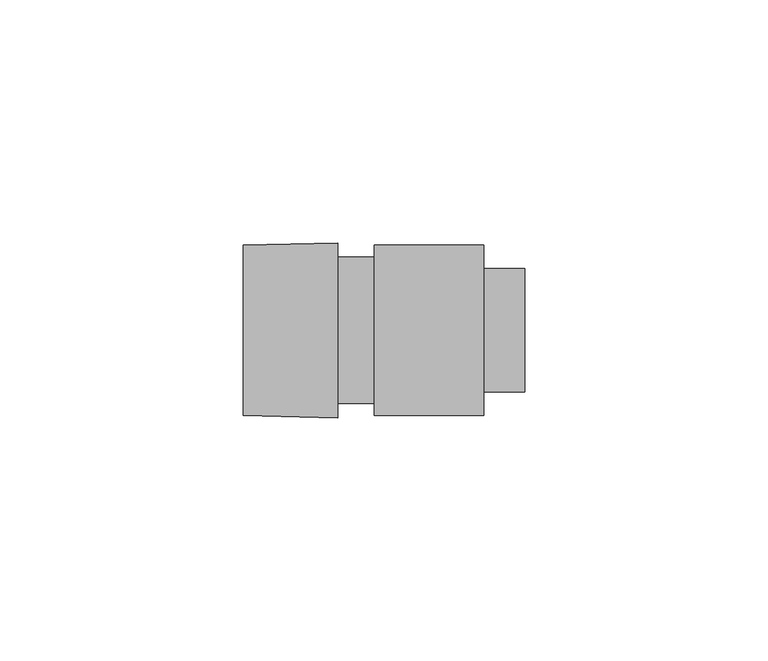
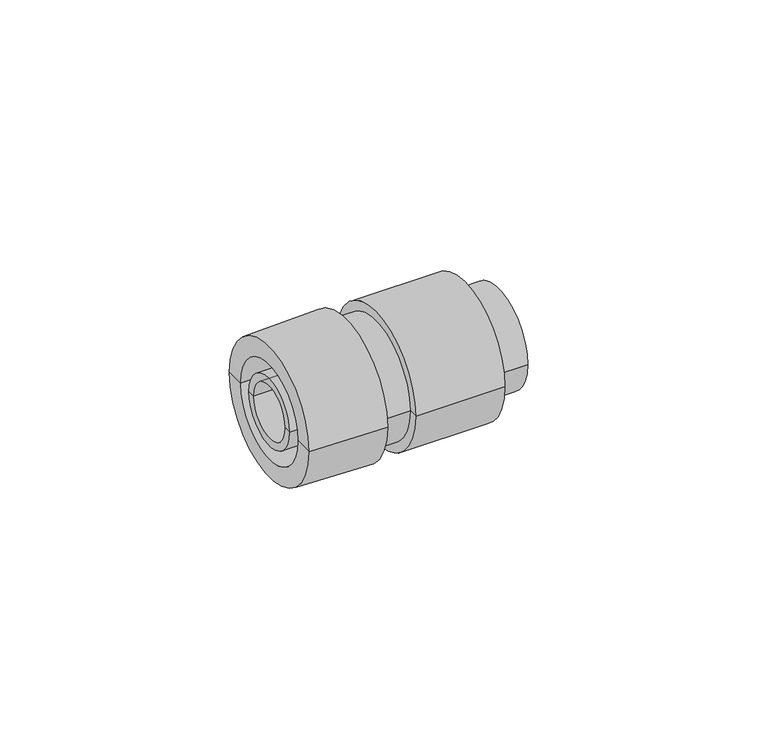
"""IFC4 building model written with IfcOpenShell, lengths in millimetres: cable carrier fitting geometry, КНС_ПереходникАрмированнаяТрубаКоробка_IP65_DKC : Коробка."""

import ifcopenshell
import ifcopenshell.guid

model = None  # the IFC model being written
_history = None  # IfcOwnerHistory: only IFC2X3 demands one
_inside = {}  # id of a spatial element -> (the spatial element, [elements in it])
_under = {}  # id of a project, library or spatial element -> (it, [spatial elements below it])
_declared = {}  # id of a project -> (the project, [libraries it declares])
_typed = {}  # id of a type object -> (the type object, [elements of that type])
_made_of = {}  # id of a material, layer set ... -> (it, [elements and type objects made of it])


def new_model(schema):
    """Start an empty IFC model of exactly this schema.

    Asked for "IFC4X3", IfcOpenShell would pick the latest addendum, in which some entities
    have other attributes; the version numbers below select the first issue.
    IFC2X3 requires an IfcOwnerHistory on every rooted entity: one is made here for all.
    """
    global model, _history
    if schema == "IFC4X3":
        model = ifcopenshell.file(schema_version=(4, 3, 0, 0))
    else:
        model = ifcopenshell.file(schema=schema)
    _inside.clear()
    _under.clear()
    _declared.clear()
    _typed.clear()
    _made_of.clear()
    _history = None
    if model.schema == "IFC2X3":
        org = make("IfcOrganization", Name="unknown")
        user = make(
            "IfcPersonAndOrganization",
            ThePerson=make("IfcPerson", FamilyName="unknown"),
            TheOrganization=org,
        )
        app = make(
            "IfcApplication",
            ApplicationDeveloper=org,
            Version="unknown",
            ApplicationFullName="unknown",
            ApplicationIdentifier="unknown",
        )
        _history = make(
            "IfcOwnerHistory",
            OwningUser=user,
            OwningApplication=app,
            ChangeAction="ADDED",
            CreationDate=0,
        )
    return model


def make(cls, **values):
    """One entity of the class cls with the attributes given. An attribute that is None is left unset."""
    return model.create_entity(
        cls, **{name: value for name, value in values.items() if value is not None}
    )


def rooted(cls, **values):
    """An entity with a GlobalId (a new one), such as an element, a storey or a relation."""
    return make(cls, GlobalId=ifcopenshell.guid.new(), OwnerHistory=_history, **values)


def si_unit(unit_type, name, prefix=None):
    """IfcSIUnit, for example si_unit("LENGTHUNIT", "METRE", prefix="MILLI")."""
    return make("IfcSIUnit", UnitType=unit_type, Prefix=prefix, Name=name)


def assignment(units):
    """IfcUnitAssignment: the units of a project."""
    return None if units is None else make("IfcUnitAssignment", Units=units)


def point(xyz):
    """IfcCartesianPoint."""
    return None if xyz is None else make("IfcCartesianPoint", Coordinates=xyz)


def direction(xyz):
    """IfcDirection."""
    return None if xyz is None else make("IfcDirection", DirectionRatios=xyz)


def frame(location, z_axis=None, x_axis=None):
    """IfcAxis2Placement3D, a coordinate frame: its origin and axes. An axis left out is left unset."""
    return make(
        "IfcAxis2Placement3D",
        Location=point(location),
        Axis=direction(z_axis),
        RefDirection=direction(x_axis),
    )


def origin():
    """The frame at (0, 0, 0) with its axes left unset."""
    return frame((0.0, 0.0, 0.0))


def place(relative_to, where):
    """IfcLocalPlacement: puts the frame where relative to a parent placement (None: the world)."""
    return make(
        "IfcLocalPlacement", PlacementRelTo=relative_to, RelativePlacement=where
    )


def context(
    kind, dimensions, precision=None, world=None, true_north=None, identifier=None
):
    """IfcGeometricRepresentationContext, for example the 3D "Model" context."""
    return make(
        "IfcGeometricRepresentationContext",
        ContextIdentifier=identifier,
        ContextType=kind,
        CoordinateSpaceDimension=dimensions,
        Precision=precision,
        WorldCoordinateSystem=world,
        TrueNorth=true_north,
    )


def project(units=None, contexts=None):
    """IfcProject with its units and contexts."""
    return rooted(
        "IfcProject",
        Name="project",
        RepresentationContexts=contexts,
        UnitsInContext=assignment(units),
    )


def spatial(cls, under=None, at=None, **own):
    """A site, building, storey or space (cls), placed at a placement, below another one or the project."""
    s = rooted(cls, ObjectPlacement=at, **own)
    if under is not None:
        _under.setdefault(under.id(), (under, []))[1].append(s)
    return s


def polyline(points):
    """IfcPolyline through the points."""
    return make("IfcPolyline", Points=[point(p) for p in points])


def circle_curve(where, radius):
    """IfcCircle in the frame where."""
    return make("IfcCircle", Position=where, Radius=radius)


def shape(context_of_items, identifier, shape_type, items):
    """IfcShapeRepresentation: the items that make up one representation, for example the "Body"."""
    return make(
        "IfcShapeRepresentation",
        ContextOfItems=context_of_items,
        RepresentationIdentifier=identifier,
        RepresentationType=shape_type,
        Items=items,
    )


def source(mapping_origin, context_of_items, identifier, shape_type, items):
    """IfcRepresentationMap: a shape defined once, which mapped items show again and again."""
    return make(
        "IfcRepresentationMap",
        MappingOrigin=mapping_origin,
        MappedRepresentation=shape(context_of_items, identifier, shape_type, items),
    )


def transform(
    local_origin,
    x_axis=None,
    y_axis=None,
    z_axis=None,
    scale=None,
    scale2=None,
    scale3=None,
    uniform=True,
):
    """IfcCartesianTransformationOperator3D, or its non-uniform kind. x_axis, y_axis, z_axis: its Axis1, 2, 3."""
    if uniform:
        return make(
            "IfcCartesianTransformationOperator3D",
            Axis1=direction(x_axis),
            Axis2=direction(y_axis),
            LocalOrigin=point(local_origin),
            Scale=scale,
            Axis3=direction(z_axis),
        )
    return make(
        "IfcCartesianTransformationOperator3DnonUniform",
        Axis1=direction(x_axis),
        Axis2=direction(y_axis),
        LocalOrigin=point(local_origin),
        Scale=scale,
        Axis3=direction(z_axis),
        Scale2=scale2,
        Scale3=scale3,
    )


def mapped(mapping_source, mapping_target):
    """IfcMappedItem: shows the shape of a source again, moved by a transform."""
    return make(
        "IfcMappedItem", MappingSource=mapping_source, MappingTarget=mapping_target
    )


def made_of(thing, what):
    """Note that an element or type object is made of a material, layer set ...; save() writes the relation."""
    if what is not None:
        _made_of.setdefault(what.id(), (what, []))[1].append(thing)
    return thing


def element(
    cls,
    number,
    at=None,
    inside=None,
    cuts=None,
    type_object=None,
    material=None,
    context=None,
    identifier="Body",
    shape_type=None,
    held_by="IfcProductDefinitionShape",
    body=None,
    shapes=None,
    **own,
):
    """One element of the class cls, such as IfcWall. Its Tag is "e" and its number.

    at: its placement. inside: the storey or other place that contains it. cuts: it is an
    opening in that element (IfcRelVoidsElement). A single representation is given by context,
    identifier, shape_type and body (its items); several are given by shapes. held_by: the class
    of the entity that holds the representations. save() writes the other relations.
    """
    e = rooted(cls, Tag="e%d" % number, ObjectPlacement=at, **own)
    if body is not None:
        shapes = [shape(context, identifier, shape_type, body)]
    if shapes is not None:
        e.Representation = make(held_by, Representations=shapes)
    if inside is not None:
        _inside.setdefault(inside.id(), (inside, []))[1].append(e)
    if cuts is not None:
        rooted(
            "IfcRelVoidsElement", RelatingBuildingElement=cuts, RelatedOpeningElement=e
        )
    if type_object is not None:
        _typed.setdefault(type_object.id(), (type_object, []))[1].append(e)
    return made_of(e, material)


def aggregate(whole, parts):
    """IfcRelAggregates: a whole, such as a stair, and the parts it consists of."""
    return rooted("IfcRelAggregates", RelatingObject=whole, RelatedObjects=parts)


def save(model, path):
    """Write the relations noted so far, then the file.

    IfcRelAggregates (storeys below a building ...), IfcRelContainedInSpatialStructure (elements
    in a storey), IfcRelDefinesByType, IfcRelAssociatesMaterial and IfcRelDeclares: one each for
    every whole, place, type object, material and project.
    """
    for whole, parts in _under.values():
        aggregate(whole, parts)
    for where, things in _inside.values():
        rooted(
            "IfcRelContainedInSpatialStructure",
            RelatedElements=things,
            RelatingStructure=where,
        )
    for kind, things in _typed.values():
        rooted("IfcRelDefinesByType", RelatedObjects=things, RelatingType=kind)
    for what, things in _made_of.values():
        rooted("IfcRelAssociatesMaterial", RelatedObjects=things, RelatingMaterial=what)
    for by, libraries in _declared.values():
        rooted("IfcRelDeclares", RelatingContext=by, RelatedDefinitions=libraries)
    model.write(path)


def plane_surface(at):
    """IfcPlane: the flat surface through the origin of the frame at, square to its z axis."""
    return make("IfcPlane", Position=at)


def cylinder_surface(at, radius):
    """IfcCylindricalSurface: all points at the distance radius from the z axis of the frame at."""
    return make("IfcCylindricalSurface", Position=at, Radius=radius)


def revolved_surface(curve, axis_point, axis_direction):
    """IfcSurfaceOfRevolution: the curve turned about the line through axis_point along axis_direction."""
    return make(
        "IfcSurfaceOfRevolution",
        SweptCurve=make("IfcArbitraryOpenProfileDef", ProfileType="CURVE", Curve=curve),
        AxisPosition=make("IfcAxis1Placement", Location=point(axis_point), Axis=direction(axis_direction)),
    )


def advanced_brep(points, edges, surfaces, faces):
    """IfcAdvancedBrep: a solid bounded by faces that lie on surfaces and meet in shared edges.

    An edge is (start, end): straight between two places in points (the first is 0);
    or (start, end, curve); or (start, end, curve, False) where it runs against its curve.
    A face is (place in surfaces, loops), or (place, loops, False) where it looks against
    its surface's normal. A loop lists edges by number (the first is 1), with a minus sign
    where the edge is run from its end to its start. The first loop is the outer one.
    """
    corners = [point(p) for p in points]
    vertices = [make("IfcVertexPoint", VertexGeometry=c) for c in corners]
    made = []
    for start, end, *more in edges:
        made.append(
            make(
                "IfcEdgeCurve",
                EdgeStart=vertices[start],
                EdgeEnd=vertices[end],
                EdgeGeometry=more[0] if more else make("IfcPolyline", Points=[corners[start], corners[end]]),
                SameSense=more[1] if len(more) > 1 else True,
            )
        )
    hull = []
    for where, loops, *sense in faces:
        bounds = []
        for j, loop in enumerate(loops):
            ring = [make("IfcOrientedEdge", EdgeElement=made[abs(k) - 1], Orientation=k > 0) for k in loop]
            bounds.append(
                make(
                    "IfcFaceOuterBound" if j == 0 else "IfcFaceBound",
                    Bound=make("IfcEdgeLoop", EdgeList=ring),
                    Orientation=True,
                )
            )
        hull.append(make("IfcAdvancedFace", Bounds=bounds, FaceSurface=surfaces[where], SameSense=sense[0] if sense else True))
    return make("IfcAdvancedBrep", Outer=make("IfcClosedShell", CfsFaces=hull))


def cable_carrier_fitting_292e486f(model_context):
    return source(origin(), model_context, "Body", "AdvancedBrep", [
        advanced_brep(
        [(38.5, -10.6353846, 0.0), (38.5, 10.6353846, 0.0), (0.0, 10.6353846, 0.0), (0.0, -10.6353846, 0.0), (38.5, -12.7, 0.0), (38.5, 12.7, 0.0), (30.0, -12.7, 0.0), (30.0, 12.7, 0.0), (30.0, -17.5, 0.0), (30.0, 17.5, 0.0), (7.5, -17.5, 0.0), (7.5, 17.5, 0.0), (7.5, -15.1, 0.0), (7.5, 15.1, 0.0), (0.0, -15.1, 0.0), (0.0, 15.1, 0.0)],
        [
            (0, 1, circle_curve(frame((38.5, 0.0, 0.0), z_axis=(1.0, 0.0, 0.0), x_axis=(0.0, 1.0, 0.0)), 10.6353846)),
            (1, 2),
            (2, 3, circle_curve(frame((0.0, 0.0, 0.0), z_axis=(-1.0, 0.0, 0.0), x_axis=(0.0, 1.0, 0.0)), 10.6353846)),
            (3, 0),
            (1, 0, circle_curve(frame((38.5, 0.0, 0.0), z_axis=(1.0, 0.0, 0.0), x_axis=(0.0, 1.0, 0.0)), 10.6353846)),
            (3, 2, circle_curve(frame((0.0, 0.0, 0.0), z_axis=(-1.0, 0.0, 0.0), x_axis=(0.0, 1.0, 0.0)), 10.6353846)),
            (4, 5, circle_curve(frame((38.5, 0.0, 0.0), z_axis=(1.0, 0.0, 0.0), x_axis=(0.0, 1.0, 0.0)), 12.7)),
            (5, 1),
            (0, 4),
            (5, 4, circle_curve(frame((38.5, 0.0, 0.0), z_axis=(1.0, 0.0, 0.0), x_axis=(0.0, 1.0, 0.0)), 12.7)),
            (6, 7, circle_curve(frame((30.0, 0.0, 0.0), z_axis=(1.0, 0.0, 0.0), x_axis=(0.0, 1.0, 0.0)), 12.7)),
            (7, 5),
            (4, 6),
            (7, 6, circle_curve(frame((30.0, 0.0, 0.0), z_axis=(1.0, 0.0, 0.0), x_axis=(0.0, 1.0, 0.0)), 12.7)),
            (8, 9, circle_curve(frame((30.0, 0.0, 0.0), z_axis=(1.0, 0.0, 0.0), x_axis=(0.0, 1.0, 0.0)), 17.5)),
            (9, 7),
            (6, 8),
            (9, 8, circle_curve(frame((30.0, 0.0, 0.0), z_axis=(1.0, 0.0, 0.0), x_axis=(0.0, 1.0, 0.0)), 17.5)),
            (10, 11, circle_curve(frame((7.5, 0.0, 0.0), z_axis=(1.0, 0.0, 0.0), x_axis=(0.0, 1.0, 0.0)), 17.5)),
            (11, 9),
            (8, 10),
            (11, 10, circle_curve(frame((7.5, 0.0, 0.0), z_axis=(1.0, 0.0, 0.0), x_axis=(0.0, 1.0, 0.0)), 17.5)),
            (12, 13, circle_curve(frame((7.5, 0.0, 0.0), z_axis=(1.0, 0.0, 0.0), x_axis=(0.0, 1.0, 0.0)), 15.1)),
            (13, 11),
            (10, 12),
            (13, 12, circle_curve(frame((7.5, 0.0, 0.0), z_axis=(1.0, 0.0, 0.0), x_axis=(0.0, 1.0, 0.0)), 15.1)),
            (14, 15, circle_curve(frame((0.0, 0.0, 0.0), z_axis=(1.0, 0.0, 0.0), x_axis=(0.0, 1.0, 0.0)), 15.1)),
            (15, 13),
            (12, 14),
            (15, 14, circle_curve(frame((0.0, 0.0, 0.0), z_axis=(1.0, 0.0, 0.0), x_axis=(0.0, 1.0, 0.0)), 15.1)),
            (2, 15),
            (14, 3),
        ],
        [
            revolved_surface(polyline([(0.0, 10.6353846, 0.0), (38.5, 10.6353846, 0.0)]), (1527.0, 0.0, 0.0), (-1.0, 0.0, 0.0)),
            plane_surface(frame((38.5, 0.0, 0.0), z_axis=(1.0, 0.0, 0.0), x_axis=(0.0, 1.0, 0.0))),
            cylinder_surface(frame((1527.0, 0.0, 0.0), z_axis=(-1.0, 0.0, 0.0), x_axis=(0.0, 1.0, 0.0)), 12.7),
            plane_surface(frame((30.0, 0.0, 0.0), z_axis=(1.0, 0.0, 0.0), x_axis=(0.0, 1.0, 0.0))),
            cylinder_surface(frame((1527.0, 0.0, 0.0), z_axis=(-1.0, 0.0, 0.0), x_axis=(0.0, 1.0, 0.0)), 17.5),
            plane_surface(frame((7.5, 0.0, 0.0), z_axis=(-1.0, 0.0, 0.0), x_axis=(0.0, 1.0, 0.0))),
            cylinder_surface(frame((1527.0, 0.0, 0.0), z_axis=(-1.0, 0.0, 0.0), x_axis=(0.0, 1.0, 0.0)), 15.1),
            plane_surface(frame((0.0, 0.0, 0.0), z_axis=(-1.0, 0.0, 0.0), x_axis=(0.0, 1.0, 0.0))),
        ],
        [
            (0, [[1, 2, 3, 4]]),
            (0, [[5, -4, 6, -2]]),
            (1, [[7, 8, -1, 9]]),
            (1, [[10, -9, -5, -8]]),
            (2, [[11, 12, -7, 13]]),
            (2, [[14, -13, -10, -12]]),
            (3, [[15, 16, -11, 17]]),
            (3, [[18, -17, -14, -16]]),
            (4, [[19, 20, -15, 21]]),
            (4, [[22, -21, -18, -20]]),
            (5, [[23, 24, -19, 25]]),
            (5, [[26, -25, -22, -24]]),
            (6, [[27, 28, -23, 29]]),
            (6, [[30, -29, -26, -28]]),
            (7, [[-3, 31, -27, 32]]),
            (7, [[-6, -32, -30, -31]]),
        ],
    ),
        advanced_brep(
        [(0.0, -18.0, 0.0), (0.0, 18.0, 0.0), (0.0, 12.7, 0.0), (0.0, -12.7, 0.0), (-19.5, -17.5, 0.0), (-19.5, 17.5, 0.0), (-19.5, -12.7, 0.0), (-19.5, 12.7, 0.0)],
        [
            (0, 1, circle_curve(frame((0.0, 0.0, 0.0), z_axis=(1.0, 0.0, 0.0), x_axis=(0.0, 1.0, 0.0)), 18.0)),
            (1, 2),
            (2, 3, circle_curve(frame((0.0, 0.0, 0.0), z_axis=(-1.0, 0.0, 0.0), x_axis=(0.0, 1.0, 0.0)), 12.7)),
            (3, 0),
            (1, 0, circle_curve(frame((0.0, 0.0, 0.0), z_axis=(1.0, 0.0, 0.0), x_axis=(0.0, 1.0, 0.0)), 18.0)),
            (3, 2, circle_curve(frame((0.0, 0.0, 0.0), z_axis=(-1.0, 0.0, 0.0), x_axis=(0.0, 1.0, 0.0)), 12.7)),
            (4, 5, circle_curve(frame((-19.5, 0.0, 0.0), z_axis=(1.0, 0.0, 0.0), x_axis=(0.0, 1.0, 0.0)), 17.5)),
            (5, 1),
            (0, 4),
            (5, 4, circle_curve(frame((-19.5, 0.0, 0.0), z_axis=(1.0, 0.0, 0.0), x_axis=(0.0, 1.0, 0.0)), 17.5)),
            (6, 7, circle_curve(frame((-19.5, 0.0, 0.0), z_axis=(1.0, 0.0, 0.0), x_axis=(0.0, 1.0, 0.0)), 12.7)),
            (7, 5),
            (4, 6),
            (7, 6, circle_curve(frame((-19.5, 0.0, 0.0), z_axis=(1.0, 0.0, 0.0), x_axis=(0.0, 1.0, 0.0)), 12.7)),
            (2, 7),
            (6, 3),
        ],
        [
            plane_surface(frame((0.0, 0.0, 0.0), z_axis=(1.0, 0.0, 0.0), x_axis=(0.0, 1.0, 0.0))),
            revolved_surface(polyline([(0.0, 18.0, 0.0), (-19.5, 17.5, 0.0)]), (1527.0, 0.0, 0.0), (-1.0, 0.0, 0.0)),
            plane_surface(frame((-19.5, 0.0, 0.0), z_axis=(-1.0, 0.0, 0.0), x_axis=(0.0, 1.0, 0.0))),
            revolved_surface(polyline([(-19.5, 12.7, 0.0), (0.0, 12.7, 0.0)]), (1527.0, 0.0, 0.0), (-1.0, 0.0, 0.0)),
        ],
        [
            (0, [[1, 2, 3, 4]]),
            (0, [[5, -4, 6, -2]]),
            (1, [[7, 8, -1, 9]]),
            (1, [[10, -9, -5, -8]]),
            (2, [[11, 12, -7, 13]]),
            (2, [[14, -13, -10, -12]]),
            (3, [[-3, 15, -11, 16]]),
            (3, [[-6, -16, -14, -15]]),
        ],
    ),
        advanced_brep(
        [(-19.5, -9.0, 0.0), (-19.5, 9.0, 0.0), (0.0, 9.0, 0.0), (0.0, -9.0, 0.0), (-19.5, -7.0, 0.0), (-19.5, 7.0, 0.0), (0.0, -7.0, 0.0), (0.0, 7.0, 0.0)],
        [
            (0, 1, circle_curve(frame((-19.5, 0.0, 0.0), z_axis=(1.0, 0.0, 0.0), x_axis=(0.0, 1.0, 0.0)), 9.0)),
            (1, 2),
            (2, 3, circle_curve(frame((0.0, 0.0, 0.0), z_axis=(-1.0, 0.0, 0.0), x_axis=(0.0, 1.0, 0.0)), 9.0)),
            (3, 0),
            (1, 0, circle_curve(frame((-19.5, 0.0, 0.0), z_axis=(1.0, 0.0, 0.0), x_axis=(0.0, 1.0, 0.0)), 9.0)),
            (3, 2, circle_curve(frame((0.0, 0.0, 0.0), z_axis=(-1.0, 0.0, 0.0), x_axis=(0.0, 1.0, 0.0)), 9.0)),
            (4, 5, circle_curve(frame((-19.5, 0.0, 0.0), z_axis=(1.0, 0.0, 0.0), x_axis=(0.0, 1.0, 0.0)), 7.0)),
            (5, 1),
            (0, 4),
            (5, 4, circle_curve(frame((-19.5, 0.0, 0.0), z_axis=(1.0, 0.0, 0.0), x_axis=(0.0, 1.0, 0.0)), 7.0)),
            (6, 7, circle_curve(frame((0.0, 0.0, 0.0), z_axis=(1.0, 0.0, 0.0), x_axis=(0.0, 1.0, 0.0)), 7.0)),
            (7, 5),
            (4, 6),
            (7, 6, circle_curve(frame((0.0, 0.0, 0.0), z_axis=(1.0, 0.0, 0.0), x_axis=(0.0, 1.0, 0.0)), 7.0)),
            (2, 7),
            (6, 3),
        ],
        [
            cylinder_surface(frame((1527.0, 0.0, 0.0), z_axis=(-1.0, 0.0, 0.0), x_axis=(0.0, 1.0, 0.0)), 9.0),
            plane_surface(frame((-19.5, 0.0, 0.0), z_axis=(-1.0, 0.0, 0.0), x_axis=(0.0, 1.0, 0.0))),
            revolved_surface(polyline([(-19.5, 7.0, 0.0), (0.0, 7.0, 0.0)]), (1527.0, 0.0, 0.0), (-1.0, 0.0, 0.0)),
            plane_surface(frame((0.0, 0.0, 0.0), z_axis=(1.0, 0.0, 0.0), x_axis=(0.0, 1.0, 0.0))),
        ],
        [
            (0, [[1, 2, 3, 4]]),
            (0, [[5, -4, 6, -2]]),
            (1, [[7, 8, -1, 9]]),
            (1, [[10, -9, -5, -8]]),
            (2, [[11, 12, -7, 13]]),
            (2, [[14, -13, -10, -12]]),
            (3, [[-3, 15, -11, 16]]),
            (3, [[-6, -16, -14, -15]]),
        ],
    ),
    ])


if __name__ == "__main__":
    model = new_model("IFC4")
    model_context = context("Model", 3, world=origin())
    ifc_project = project(units=[si_unit("LENGTHUNIT", "METRE", prefix="MILLI")], contexts=[model_context])
    site = spatial("IfcSite", under=ifc_project)
    building = spatial("IfcBuilding", under=site)
    placement = place(None, origin())
    cable_carrier_fitting_shape = cable_carrier_fitting_292e486f(model_context)
    element("IfcCableCarrierFitting", 1, ObjectType="КНС_ПереходникАрмированнаяТрубаКоробка_IP65_DKC : Коробка", at=placement, inside=building, context=model_context, shape_type="MappedRepresentation", body=[
        mapped(cable_carrier_fitting_shape, transform((0.0, 0.0, 0.0), x_axis=(1.0, 0.0, 0.0), y_axis=(0.0, 1.0, 0.0), z_axis=(0.0, 0.0, 1.0))),
    ])
    save(model, "model.ifc")
